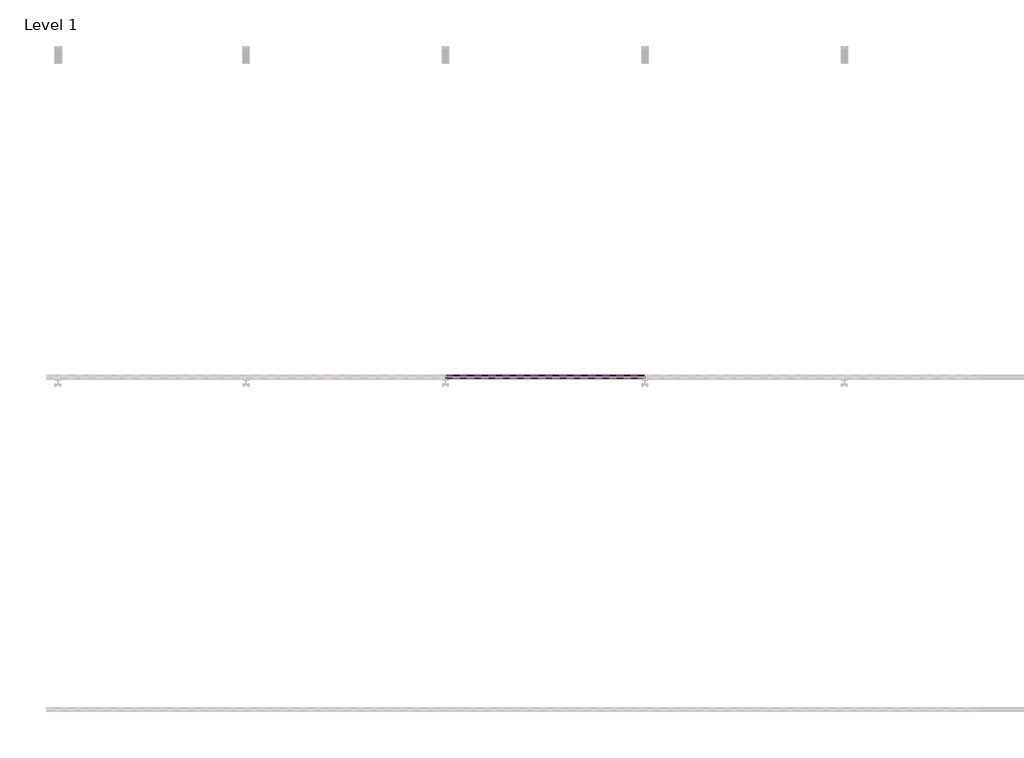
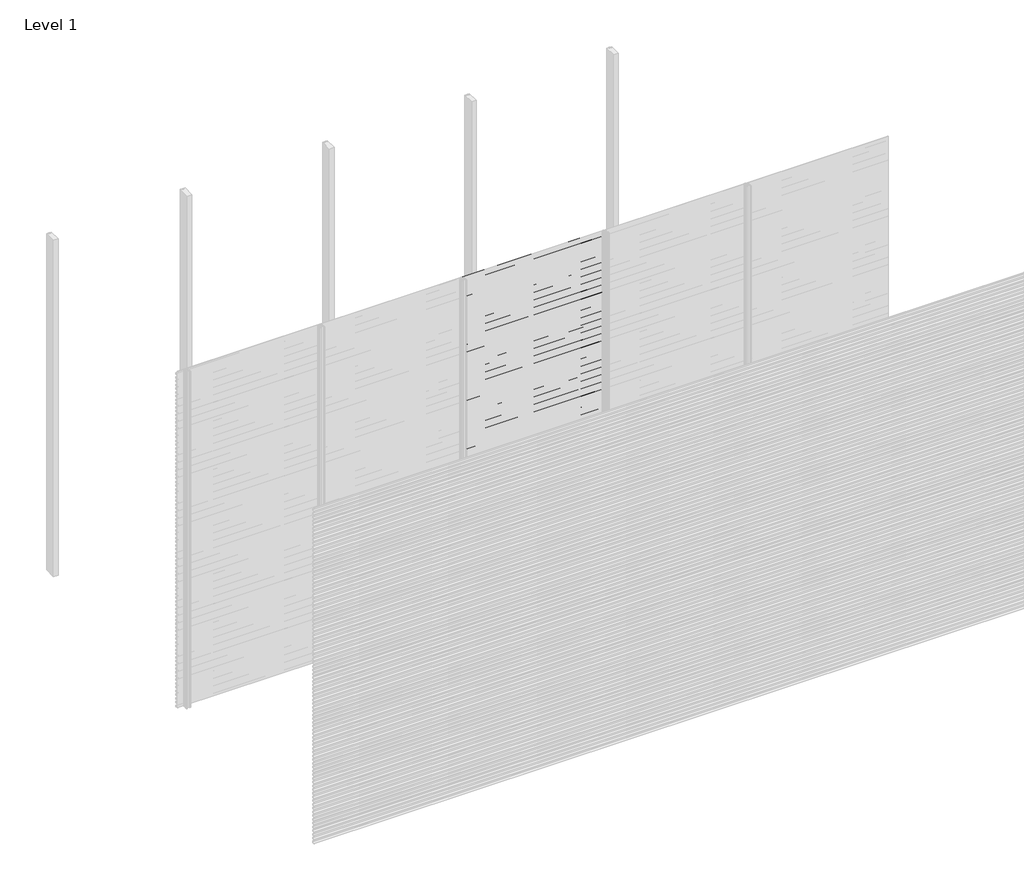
# One storey, part 22 of 77: 72 proxies.
"""IFC4 building model written with IfcOpenShell, lengths in millimetres."""

import ifcopenshell
import ifcopenshell.guid

model = None  # the IFC model being written
_history = None  # IfcOwnerHistory: only IFC2X3 demands one
_inside = {}  # id of a spatial element -> (the spatial element, [elements in it])
_under = {}  # id of a project, library or spatial element -> (it, [spatial elements below it])
_declared = {}  # id of a project -> (the project, [libraries it declares])
_typed = {}  # id of a type object -> (the type object, [elements of that type])
_made_of = {}  # id of a material, layer set ... -> (it, [elements and type objects made of it])


def new_model(schema):
    """Start an empty IFC model of exactly this schema.

    Asked for "IFC4X3", IfcOpenShell would pick the latest addendum, in which some entities
    have other attributes; the version numbers below select the first issue.
    IFC2X3 requires an IfcOwnerHistory on every rooted entity: one is made here for all.
    """
    global model, _history
    if schema == "IFC4X3":
        model = ifcopenshell.file(schema_version=(4, 3, 0, 0))
    else:
        model = ifcopenshell.file(schema=schema)
    _inside.clear()
    _under.clear()
    _declared.clear()
    _typed.clear()
    _made_of.clear()
    _history = None
    if model.schema == "IFC2X3":
        org = make("IfcOrganization", Name="unknown")
        user = make(
            "IfcPersonAndOrganization",
            ThePerson=make("IfcPerson", FamilyName="unknown"),
            TheOrganization=org,
        )
        app = make(
            "IfcApplication",
            ApplicationDeveloper=org,
            Version="unknown",
            ApplicationFullName="unknown",
            ApplicationIdentifier="unknown",
        )
        _history = make(
            "IfcOwnerHistory",
            OwningUser=user,
            OwningApplication=app,
            ChangeAction="ADDED",
            CreationDate=0,
        )
    return model


def make(cls, **values):
    """One entity of the class cls with the attributes given. An attribute that is None is left unset."""
    return model.create_entity(
        cls, **{name: value for name, value in values.items() if value is not None}
    )


def rooted(cls, **values):
    """An entity with a GlobalId (a new one), such as an element, a storey or a relation."""
    return make(cls, GlobalId=ifcopenshell.guid.new(), OwnerHistory=_history, **values)


def si_unit(unit_type, name, prefix=None):
    """IfcSIUnit, for example si_unit("LENGTHUNIT", "METRE", prefix="MILLI")."""
    return make("IfcSIUnit", UnitType=unit_type, Prefix=prefix, Name=name)


def assignment(units):
    """IfcUnitAssignment: the units of a project."""
    return None if units is None else make("IfcUnitAssignment", Units=units)


def point(xyz):
    """IfcCartesianPoint."""
    return None if xyz is None else make("IfcCartesianPoint", Coordinates=xyz)


def direction(xyz):
    """IfcDirection."""
    return None if xyz is None else make("IfcDirection", DirectionRatios=xyz)


def frame(location, z_axis=None, x_axis=None):
    """IfcAxis2Placement3D, a coordinate frame: its origin and axes. An axis left out is left unset."""
    return make(
        "IfcAxis2Placement3D",
        Location=point(location),
        Axis=direction(z_axis),
        RefDirection=direction(x_axis),
    )


def origin():
    """The frame at (0, 0, 0) with its axes left unset."""
    return frame((0.0, 0.0, 0.0))


def place(relative_to, where):
    """IfcLocalPlacement: puts the frame where relative to a parent placement (None: the world)."""
    return make(
        "IfcLocalPlacement", PlacementRelTo=relative_to, RelativePlacement=where
    )


def context(
    kind, dimensions, precision=None, world=None, true_north=None, identifier=None
):
    """IfcGeometricRepresentationContext, for example the 3D "Model" context."""
    return make(
        "IfcGeometricRepresentationContext",
        ContextIdentifier=identifier,
        ContextType=kind,
        CoordinateSpaceDimension=dimensions,
        Precision=precision,
        WorldCoordinateSystem=world,
        TrueNorth=true_north,
    )


def project(units=None, contexts=None):
    """IfcProject with its units and contexts."""
    return rooted(
        "IfcProject",
        Name="project",
        RepresentationContexts=contexts,
        UnitsInContext=assignment(units),
    )


def spatial(cls, under=None, at=None, **own):
    """A site, building, storey or space (cls), placed at a placement, below another one or the project."""
    s = rooted(cls, ObjectPlacement=at, **own)
    if under is not None:
        _under.setdefault(under.id(), (under, []))[1].append(s)
    return s


def polyline(points):
    """IfcPolyline through the points."""
    return make("IfcPolyline", Points=[point(p) for p in points])


def outline(outer, holes=None, kind="AREA"):
    """IfcArbitraryClosedProfileDef: a profile drawn as a closed curve; with holes, ...WithVoids."""
    if holes is None:
        return make("IfcArbitraryClosedProfileDef", ProfileType=kind, OuterCurve=outer)
    return make(
        "IfcArbitraryProfileDefWithVoids",
        ProfileType=kind,
        OuterCurve=outer,
        InnerCurves=holes,
    )


def extrude(swept, where, along, depth):
    """IfcExtrudedAreaSolid: the profile swept, set in the frame where, extruded along a direction by depth."""
    return make(
        "IfcExtrudedAreaSolid",
        SweptArea=swept,
        Position=where,
        ExtrudedDirection=direction(along),
        Depth=depth,
    )


def shape(context_of_items, identifier, shape_type, items):
    """IfcShapeRepresentation: the items that make up one representation, for example the "Body"."""
    return make(
        "IfcShapeRepresentation",
        ContextOfItems=context_of_items,
        RepresentationIdentifier=identifier,
        RepresentationType=shape_type,
        Items=items,
    )


def made_of(thing, what):
    """Note that an element or type object is made of a material, layer set ...; save() writes the relation."""
    if what is not None:
        _made_of.setdefault(what.id(), (what, []))[1].append(thing)
    return thing


def element(
    cls,
    number,
    at=None,
    inside=None,
    cuts=None,
    type_object=None,
    material=None,
    context=None,
    identifier="Body",
    shape_type=None,
    held_by="IfcProductDefinitionShape",
    body=None,
    shapes=None,
    **own,
):
    """One element of the class cls, such as IfcWall. Its Tag is "e" and its number.

    at: its placement. inside: the storey or other place that contains it. cuts: it is an
    opening in that element (IfcRelVoidsElement). A single representation is given by context,
    identifier, shape_type and body (its items); several are given by shapes. held_by: the class
    of the entity that holds the representations. save() writes the other relations.
    """
    e = rooted(cls, Tag="e%d" % number, ObjectPlacement=at, **own)
    if body is not None:
        shapes = [shape(context, identifier, shape_type, body)]
    if shapes is not None:
        e.Representation = make(held_by, Representations=shapes)
    if inside is not None:
        _inside.setdefault(inside.id(), (inside, []))[1].append(e)
    if cuts is not None:
        rooted(
            "IfcRelVoidsElement", RelatingBuildingElement=cuts, RelatedOpeningElement=e
        )
    if type_object is not None:
        _typed.setdefault(type_object.id(), (type_object, []))[1].append(e)
    return made_of(e, material)


def aggregate(whole, parts):
    """IfcRelAggregates: a whole, such as a stair, and the parts it consists of."""
    return rooted("IfcRelAggregates", RelatingObject=whole, RelatedObjects=parts)


def save(model, path):
    """Write the relations noted so far, then the file.

    IfcRelAggregates (storeys below a building ...), IfcRelContainedInSpatialStructure (elements
    in a storey), IfcRelDefinesByType, IfcRelAssociatesMaterial and IfcRelDeclares: one each for
    every whole, place, type object, material and project.
    """
    for whole, parts in _under.values():
        aggregate(whole, parts)
    for where, things in _inside.values():
        rooted(
            "IfcRelContainedInSpatialStructure",
            RelatedElements=things,
            RelatingStructure=where,
        )
    for kind, things in _typed.values():
        rooted("IfcRelDefinesByType", RelatedObjects=things, RelatingType=kind)
    for what, things in _made_of.values():
        rooted("IfcRelAssociatesMaterial", RelatedObjects=things, RelatingMaterial=what)
    for by, libraries in _declared.values():
        rooted("IfcRelDeclares", RelatingContext=by, RelatedDefinitions=libraries)
    model.write(path)


model = new_model("IFC4")

# Units and contexts
model_context = context("Model", 3, world=origin())
ifc_project = project(units=[si_unit("LENGTHUNIT", "METRE", prefix="MILLI")], contexts=[model_context])

# Site, building, storey
site = spatial("IfcSite", under=ifc_project)
building = spatial("IfcBuilding", under=site)
storey = spatial("IfcBuildingStorey", under=building, Name="Level 1", Elevation=0.0)

# Proxies
placement = place(None, origin())
element("IfcBuildingElementProxy", 1, Name="Wall Sweeps", at=placement, inside=storey, context=model_context, shape_type="SweptSolid", body=[
    extrude(outline(polyline([(-41978.6, 408.4359887), (-41998.0, 419.6366691), (-41998.0, 432.9), (-41997.0, 432.9), (-41997.0, 420.2191057), (-41977.6, 409.0185105), (-41977.6, 395.4185105), (-41978.6, 396.9953129), (-41978.6, 402.8032062), (-41995.9773817, 394.7), (-41996.4, 395.6063078), (-41978.6, 403.9065841), (-41978.6, 408.4359887)])), frame((1200.0, 0.0, 0.0), z_axis=(1.0, 0.0, 0.0), x_axis=(0.0, 1.0, 0.0)), (0.0, 0.0, 1.0), 1200.0),
])
element("IfcBuildingElementProxy", 2, Name="Wall Sweeps", at=placement, inside=storey, context=model_context, shape_type="SweptSolid", body=[
    extrude(outline(polyline([(-41978.6, 375.1359887), (-41998.0, 386.3366691), (-41998.0, 399.6), (-41997.0, 399.6), (-41997.0, 386.9191057), (-41977.6, 375.7185105), (-41977.6, 362.1185105), (-41978.6, 363.6953129), (-41978.6, 369.5032062), (-41995.9773817, 361.4), (-41996.4, 362.3063078), (-41978.6, 370.6065841), (-41978.6, 375.1359887)])), frame((1200.0, 0.0, 0.0), z_axis=(1.0, 0.0, 0.0), x_axis=(0.0, 1.0, 0.0)), (0.0, 0.0, 1.0), 1200.0),
])
element("IfcBuildingElementProxy", 3, Name="Wall Sweeps", at=placement, inside=storey, context=model_context, shape_type="SweptSolid", body=[
    extrude(outline(polyline([(-41978.6, 341.8359887), (-41998.0, 353.0366691), (-41998.0, 366.3), (-41997.0, 366.3), (-41997.0, 353.6191057), (-41977.6, 342.4185105), (-41977.6, 328.8185105), (-41978.6, 330.3953129), (-41978.6, 336.2032062), (-41995.9773817, 328.1), (-41996.4, 329.0063078), (-41978.6, 337.3065841), (-41978.6, 341.8359887)])), frame((1200.0, 0.0, 0.0), z_axis=(1.0, 0.0, 0.0), x_axis=(0.0, 1.0, 0.0)), (0.0, 0.0, 1.0), 1200.0),
])
element("IfcBuildingElementProxy", 4, Name="Wall Sweeps", at=placement, inside=storey, context=model_context, shape_type="SweptSolid", body=[
    extrude(outline(polyline([(-41978.6, 308.5359887), (-41998.0, 319.7366691), (-41998.0, 333.0), (-41997.0, 333.0), (-41997.0, 320.3191057), (-41977.6, 309.1185105), (-41977.6, 295.5185105), (-41978.6, 297.0953129), (-41978.6, 302.9032062), (-41995.9773817, 294.8), (-41996.4, 295.7063078), (-41978.6, 304.0065841), (-41978.6, 308.5359887)])), frame((1200.0, 0.0, 0.0), z_axis=(1.0, 0.0, 0.0), x_axis=(0.0, 1.0, 0.0)), (0.0, 0.0, 1.0), 1200.0),
])
element("IfcBuildingElementProxy", 5, Name="Wall Sweeps", at=placement, inside=storey, context=model_context, shape_type="SweptSolid", body=[
    extrude(outline(polyline([(-41978.6, 275.2359887), (-41998.0, 286.4366691), (-41998.0, 299.7), (-41997.0, 299.7), (-41997.0, 287.0191057), (-41977.6, 275.8185105), (-41977.6, 262.2185105), (-41978.6, 263.7953129), (-41978.6, 269.6032062), (-41995.9773817, 261.5), (-41996.4, 262.4063078), (-41978.6, 270.7065841), (-41978.6, 275.2359887)])), frame((1200.0, 0.0, 0.0), z_axis=(1.0, 0.0, 0.0), x_axis=(0.0, 1.0, 0.0)), (0.0, 0.0, 1.0), 1200.0),
])
element("IfcBuildingElementProxy", 6, Name="Wall Sweeps", at=placement, inside=storey, context=model_context, shape_type="SweptSolid", body=[
    extrude(outline(polyline([(-41978.6, 241.9359887), (-41998.0, 253.1366691), (-41998.0, 266.4), (-41997.0, 266.4), (-41997.0, 253.7191057), (-41977.6, 242.5185105), (-41977.6, 228.9185105), (-41978.6, 230.4953129), (-41978.6, 236.3032062), (-41995.9773817, 228.2), (-41996.4, 229.1063078), (-41978.6, 237.4065841), (-41978.6, 241.9359887)])), frame((1200.0, 0.0, 0.0), z_axis=(1.0, 0.0, 0.0), x_axis=(0.0, 1.0, 0.0)), (0.0, 0.0, 1.0), 1200.0),
])
element("IfcBuildingElementProxy", 7, Name="Wall Sweeps", at=placement, inside=storey, context=model_context, shape_type="SweptSolid", body=[
    extrude(outline(polyline([(-41978.6, 208.6359887), (-41998.0, 219.8366691), (-41998.0, 233.1), (-41997.0, 233.1), (-41997.0, 220.4191057), (-41977.6, 209.2185105), (-41977.6, 195.6185105), (-41978.6, 197.1953129), (-41978.6, 203.0032062), (-41995.9773817, 194.9), (-41996.4, 195.8063078), (-41978.6, 204.1065841), (-41978.6, 208.6359887)])), frame((1200.0, 0.0, 0.0), z_axis=(1.0, 0.0, 0.0), x_axis=(0.0, 1.0, 0.0)), (0.0, 0.0, 1.0), 1200.0),
])
element("IfcBuildingElementProxy", 8, Name="Wall Sweeps", at=placement, inside=storey, context=model_context, shape_type="SweptSolid", body=[
    extrude(outline(polyline([(-41978.6, 175.3359887), (-41998.0, 186.5366691), (-41998.0, 199.8), (-41997.0, 199.8), (-41997.0, 187.1191057), (-41977.6, 175.9185105), (-41977.6, 162.3185105), (-41978.6, 163.8953129), (-41978.6, 169.7032062), (-41995.9773817, 161.6), (-41996.4, 162.5063078), (-41978.6, 170.8065841), (-41978.6, 175.3359887)])), frame((1200.0, 0.0, 0.0), z_axis=(1.0, 0.0, 0.0), x_axis=(0.0, 1.0, 0.0)), (0.0, 0.0, 1.0), 1200.0),
])
element("IfcBuildingElementProxy", 9, Name="Wall Sweeps", at=placement, inside=storey, context=model_context, shape_type="SweptSolid", body=[
    extrude(outline(polyline([(-41978.6, 142.0359887), (-41998.0, 153.2366691), (-41998.0, 166.5), (-41997.0, 166.5), (-41997.0, 153.8191057), (-41977.6, 142.6185105), (-41977.6, 129.0185105), (-41978.6, 130.5953129), (-41978.6, 136.4032062), (-41995.9773817, 128.3), (-41996.4, 129.2063078), (-41978.6, 137.5065841), (-41978.6, 142.0359887)])), frame((1200.0, 0.0, 0.0), z_axis=(1.0, 0.0, 0.0), x_axis=(0.0, 1.0, 0.0)), (0.0, 0.0, 1.0), 1200.0),
])
element("IfcBuildingElementProxy", 10, Name="Wall Sweeps", at=placement, inside=storey, context=model_context, shape_type="SweptSolid", body=[
    extrude(outline(polyline([(-41978.6, 108.7359887), (-41998.0, 119.9366691), (-41998.0, 133.2), (-41997.0, 133.2), (-41997.0, 120.5191057), (-41977.6, 109.3185105), (-41977.6, 95.7185105), (-41978.6, 97.2953129), (-41978.6, 103.1032062), (-41995.9773817, 95.0), (-41996.4, 95.9063078), (-41978.6, 104.2065841), (-41978.6, 108.7359887)])), frame((1200.0, 0.0, 0.0), z_axis=(1.0, 0.0, 0.0), x_axis=(0.0, 1.0, 0.0)), (0.0, 0.0, 1.0), 1200.0),
])
element("IfcBuildingElementProxy", 11, Name="Wall Sweeps", at=placement, inside=storey, context=model_context, shape_type="SweptSolid", body=[
    extrude(outline(polyline([(-41978.6, 75.4359887), (-41998.0, 86.6366691), (-41998.0, 99.9), (-41997.0, 99.9), (-41997.0, 87.2191057), (-41977.6, 76.0185105), (-41977.6, 62.4185105), (-41978.6, 63.9953129), (-41978.6, 69.8032062), (-41995.9773817, 61.7), (-41996.4, 62.6063078), (-41978.6, 70.9065841), (-41978.6, 75.4359887)])), frame((1200.0, 0.0, 0.0), z_axis=(1.0, 0.0, 0.0), x_axis=(0.0, 1.0, 0.0)), (0.0, 0.0, 1.0), 1200.0),
])
element("IfcBuildingElementProxy", 12, Name="Wall Sweeps", at=placement, inside=storey, context=model_context, shape_type="SweptSolid", body=[
    extrude(outline(polyline([(-41978.6, 42.1359887), (-41998.0, 53.3366691), (-41998.0, 66.6), (-41997.0, 66.6), (-41997.0, 53.9191057), (-41977.6, 42.7185105), (-41977.6, 29.1185105), (-41978.6, 30.6953129), (-41978.6, 36.5032062), (-41995.9773817, 28.4), (-41996.4, 29.3063078), (-41978.6, 37.6065841), (-41978.6, 42.1359887)])), frame((1200.0, 0.0, 0.0), z_axis=(1.0, 0.0, 0.0), x_axis=(0.0, 1.0, 0.0)), (0.0, 0.0, 1.0), 1200.0),
])
element("IfcBuildingElementProxy", 13, Name="Wall Sweeps", at=placement, inside=storey, context=model_context, shape_type="SweptSolid", body=[
    extrude(outline(polyline([(-41978.6, 8.8359887), (-41998.0, 20.0366691), (-41998.0, 33.3), (-41997.0, 33.3), (-41997.0, 20.6191057), (-41977.6, 9.4185105), (-41977.6, -4.1814895), (-41978.6, -2.6046871), (-41978.6, 3.2032062), (-41995.9773817, -4.9), (-41996.4, -3.9936922), (-41978.6, 4.3065841), (-41978.6, 8.8359887)])), frame((1200.0, 0.0, 0.0), z_axis=(1.0, 0.0, 0.0), x_axis=(0.0, 1.0, 0.0)), (0.0, 0.0, 1.0), 1200.0),
])
element("IfcBuildingElementProxy", 14, Name="Wall Sweeps", at=placement, inside=storey, context=model_context, shape_type="SweptSolid", body=[
    extrude(outline(polyline([(-41978.6, 2972.5359887), (-41998.0, 2983.7366691), (-41998.0, 2997.0), (-41997.0, 2997.0), (-41997.0, 2984.3191057), (-41977.6, 2973.1185105), (-41977.6, 2959.5185105), (-41978.6, 2961.0953129), (-41978.6, 2966.9032062), (-41995.9773817, 2958.8), (-41996.4, 2959.7063078), (-41978.6, 2968.0065841), (-41978.6, 2972.5359887)])), frame((2400.0, 0.0, 0.0), z_axis=(1.0, 0.0, 0.0), x_axis=(0.0, 1.0, 0.0)), (0.0, 0.0, 1.0), 1200.0),
])
element("IfcBuildingElementProxy", 15, Name="Wall Sweeps", at=placement, inside=storey, context=model_context, shape_type="SweptSolid", body=[
    extrude(outline(polyline([(-41978.6, 2939.2359887), (-41998.0, 2950.4366691), (-41998.0, 2963.7), (-41997.0, 2963.7), (-41997.0, 2951.0191057), (-41977.6, 2939.8185105), (-41977.6, 2926.2185105), (-41978.6, 2927.7953129), (-41978.6, 2933.6032062), (-41995.9773817, 2925.5), (-41996.4, 2926.4063078), (-41978.6, 2934.7065841), (-41978.6, 2939.2359887)])), frame((2400.0, 0.0, 0.0), z_axis=(1.0, 0.0, 0.0), x_axis=(0.0, 1.0, 0.0)), (0.0, 0.0, 1.0), 1200.0),
])
element("IfcBuildingElementProxy", 16, Name="Wall Sweeps", at=placement, inside=storey, context=model_context, shape_type="SweptSolid", body=[
    extrude(outline(polyline([(-41978.6, 2905.9359887), (-41998.0, 2917.1366691), (-41998.0, 2930.4), (-41997.0, 2930.4), (-41997.0, 2917.7191057), (-41977.6, 2906.5185105), (-41977.6, 2892.9185105), (-41978.6, 2894.4953129), (-41978.6, 2900.3032062), (-41995.9773817, 2892.2), (-41996.4, 2893.1063078), (-41978.6, 2901.4065841), (-41978.6, 2905.9359887)])), frame((2400.0, 0.0, 0.0), z_axis=(1.0, 0.0, 0.0), x_axis=(0.0, 1.0, 0.0)), (0.0, 0.0, 1.0), 1200.0),
])
element("IfcBuildingElementProxy", 17, Name="Wall Sweeps", at=placement, inside=storey, context=model_context, shape_type="SweptSolid", body=[
    extrude(outline(polyline([(-41978.6, 2872.6359887), (-41998.0, 2883.8366691), (-41998.0, 2897.1), (-41997.0, 2897.1), (-41997.0, 2884.4191057), (-41977.6, 2873.2185105), (-41977.6, 2859.6185105), (-41978.6, 2861.1953129), (-41978.6, 2867.0032062), (-41995.9773817, 2858.9), (-41996.4, 2859.8063078), (-41978.6, 2868.1065841), (-41978.6, 2872.6359887)])), frame((2400.0, 0.0, 0.0), z_axis=(1.0, 0.0, 0.0), x_axis=(0.0, 1.0, 0.0)), (0.0, 0.0, 1.0), 1200.0),
])
element("IfcBuildingElementProxy", 18, Name="Wall Sweeps", at=placement, inside=storey, context=model_context, shape_type="SweptSolid", body=[
    extrude(outline(polyline([(-41978.6, 2839.3359887), (-41998.0, 2850.5366691), (-41998.0, 2863.8), (-41997.0, 2863.8), (-41997.0, 2851.1191057), (-41977.6, 2839.9185105), (-41977.6, 2826.3185105), (-41978.6, 2827.8953129), (-41978.6, 2833.7032062), (-41995.9773817, 2825.6), (-41996.4, 2826.5063078), (-41978.6, 2834.8065841), (-41978.6, 2839.3359887)])), frame((2400.0, 0.0, 0.0), z_axis=(1.0, 0.0, 0.0), x_axis=(0.0, 1.0, 0.0)), (0.0, 0.0, 1.0), 1200.0),
])
element("IfcBuildingElementProxy", 19, Name="Wall Sweeps", at=placement, inside=storey, context=model_context, shape_type="SweptSolid", body=[
    extrude(outline(polyline([(-41978.6, 2806.0359887), (-41998.0, 2817.2366691), (-41998.0, 2830.5), (-41997.0, 2830.5), (-41997.0, 2817.8191057), (-41977.6, 2806.6185105), (-41977.6, 2793.0185105), (-41978.6, 2794.5953129), (-41978.6, 2800.4032062), (-41995.9773817, 2792.3), (-41996.4, 2793.2063078), (-41978.6, 2801.5065841), (-41978.6, 2806.0359887)])), frame((2400.0, 0.0, 0.0), z_axis=(1.0, 0.0, 0.0), x_axis=(0.0, 1.0, 0.0)), (0.0, 0.0, 1.0), 1200.0),
])
element("IfcBuildingElementProxy", 20, Name="Wall Sweeps", at=placement, inside=storey, context=model_context, shape_type="SweptSolid", body=[
    extrude(outline(polyline([(-41978.6, 2772.7359887), (-41998.0, 2783.9366691), (-41998.0, 2797.2), (-41997.0, 2797.2), (-41997.0, 2784.5191057), (-41977.6, 2773.3185105), (-41977.6, 2759.7185105), (-41978.6, 2761.2953129), (-41978.6, 2767.1032062), (-41995.9773817, 2759.0), (-41996.4, 2759.9063078), (-41978.6, 2768.2065841), (-41978.6, 2772.7359887)])), frame((2400.0, 0.0, 0.0), z_axis=(1.0, 0.0, 0.0), x_axis=(0.0, 1.0, 0.0)), (0.0, 0.0, 1.0), 1200.0),
])
element("IfcBuildingElementProxy", 21, Name="Wall Sweeps", at=placement, inside=storey, context=model_context, shape_type="SweptSolid", body=[
    extrude(outline(polyline([(-41978.6, 2739.4359887), (-41998.0, 2750.6366691), (-41998.0, 2763.9), (-41997.0, 2763.9), (-41997.0, 2751.2191057), (-41977.6, 2740.0185105), (-41977.6, 2726.4185105), (-41978.6, 2727.9953129), (-41978.6, 2733.8032062), (-41995.9773817, 2725.7), (-41996.4, 2726.6063078), (-41978.6, 2734.9065841), (-41978.6, 2739.4359887)])), frame((2400.0, 0.0, 0.0), z_axis=(1.0, 0.0, 0.0), x_axis=(0.0, 1.0, 0.0)), (0.0, 0.0, 1.0), 1200.0),
])
element("IfcBuildingElementProxy", 22, Name="Wall Sweeps", at=placement, inside=storey, context=model_context, shape_type="SweptSolid", body=[
    extrude(outline(polyline([(-41978.6, 2706.1359887), (-41998.0, 2717.3366691), (-41998.0, 2730.6), (-41997.0, 2730.6), (-41997.0, 2717.9191057), (-41977.6, 2706.7185105), (-41977.6, 2693.1185105), (-41978.6, 2694.6953129), (-41978.6, 2700.5032062), (-41995.9773817, 2692.4), (-41996.4, 2693.3063078), (-41978.6, 2701.6065841), (-41978.6, 2706.1359887)])), frame((2400.0, 0.0, 0.0), z_axis=(1.0, 0.0, 0.0), x_axis=(0.0, 1.0, 0.0)), (0.0, 0.0, 1.0), 1200.0),
])
element("IfcBuildingElementProxy", 23, Name="Wall Sweeps", at=placement, inside=storey, context=model_context, shape_type="SweptSolid", body=[
    extrude(outline(polyline([(-41978.6, 2672.8359887), (-41998.0, 2684.0366691), (-41998.0, 2697.3), (-41997.0, 2697.3), (-41997.0, 2684.6191057), (-41977.6, 2673.4185105), (-41977.6, 2659.8185105), (-41978.6, 2661.3953129), (-41978.6, 2667.2032062), (-41995.9773817, 2659.1), (-41996.4, 2660.0063078), (-41978.6, 2668.3065841), (-41978.6, 2672.8359887)])), frame((2400.0, 0.0, 0.0), z_axis=(1.0, 0.0, 0.0), x_axis=(0.0, 1.0, 0.0)), (0.0, 0.0, 1.0), 1200.0),
])
element("IfcBuildingElementProxy", 24, Name="Wall Sweeps", at=placement, inside=storey, context=model_context, shape_type="SweptSolid", body=[
    extrude(outline(polyline([(-41978.6, 2639.5359887), (-41998.0, 2650.7366691), (-41998.0, 2664.0), (-41997.0, 2664.0), (-41997.0, 2651.3191057), (-41977.6, 2640.1185105), (-41977.6, 2626.5185105), (-41978.6, 2628.0953129), (-41978.6, 2633.9032062), (-41995.9773817, 2625.8), (-41996.4, 2626.7063078), (-41978.6, 2635.0065841), (-41978.6, 2639.5359887)])), frame((2400.0, 0.0, 0.0), z_axis=(1.0, 0.0, 0.0), x_axis=(0.0, 1.0, 0.0)), (0.0, 0.0, 1.0), 1200.0),
])
element("IfcBuildingElementProxy", 25, Name="Wall Sweeps", at=placement, inside=storey, context=model_context, shape_type="SweptSolid", body=[
    extrude(outline(polyline([(-41978.6, 2606.2359887), (-41998.0, 2617.4366691), (-41998.0, 2630.7), (-41997.0, 2630.7), (-41997.0, 2618.0191057), (-41977.6, 2606.8185105), (-41977.6, 2593.2185105), (-41978.6, 2594.7953129), (-41978.6, 2600.6032062), (-41995.9773817, 2592.5), (-41996.4, 2593.4063078), (-41978.6, 2601.7065841), (-41978.6, 2606.2359887)])), frame((2400.0, 0.0, 0.0), z_axis=(1.0, 0.0, 0.0), x_axis=(0.0, 1.0, 0.0)), (0.0, 0.0, 1.0), 1200.0),
])
element("IfcBuildingElementProxy", 26, Name="Wall Sweeps", at=placement, inside=storey, context=model_context, shape_type="SweptSolid", body=[
    extrude(outline(polyline([(-41978.6, 2572.9359887), (-41998.0, 2584.1366691), (-41998.0, 2597.4), (-41997.0, 2597.4), (-41997.0, 2584.7191057), (-41977.6, 2573.5185105), (-41977.6, 2559.9185105), (-41978.6, 2561.4953129), (-41978.6, 2567.3032062), (-41995.9773817, 2559.2), (-41996.4, 2560.1063078), (-41978.6, 2568.4065841), (-41978.6, 2572.9359887)])), frame((2400.0, 0.0, 0.0), z_axis=(1.0, 0.0, 0.0), x_axis=(0.0, 1.0, 0.0)), (0.0, 0.0, 1.0), 1200.0),
])
element("IfcBuildingElementProxy", 27, Name="Wall Sweeps", at=placement, inside=storey, context=model_context, shape_type="SweptSolid", body=[
    extrude(outline(polyline([(-41978.6, 2539.6359887), (-41998.0, 2550.8366691), (-41998.0, 2564.1), (-41997.0, 2564.1), (-41997.0, 2551.4191057), (-41977.6, 2540.2185105), (-41977.6, 2526.6185105), (-41978.6, 2528.1953129), (-41978.6, 2534.0032062), (-41995.9773817, 2525.9), (-41996.4, 2526.8063078), (-41978.6, 2535.1065841), (-41978.6, 2539.6359887)])), frame((2400.0, 0.0, 0.0), z_axis=(1.0, 0.0, 0.0), x_axis=(0.0, 1.0, 0.0)), (0.0, 0.0, 1.0), 1200.0),
])
element("IfcBuildingElementProxy", 28, Name="Wall Sweeps", at=placement, inside=storey, context=model_context, shape_type="SweptSolid", body=[
    extrude(outline(polyline([(-41978.6, 2506.3359887), (-41998.0, 2517.5366691), (-41998.0, 2530.8), (-41997.0, 2530.8), (-41997.0, 2518.1191057), (-41977.6, 2506.9185105), (-41977.6, 2493.3185105), (-41978.6, 2494.8953129), (-41978.6, 2500.7032062), (-41995.9773817, 2492.6), (-41996.4, 2493.5063078), (-41978.6, 2501.8065841), (-41978.6, 2506.3359887)])), frame((2400.0, 0.0, 0.0), z_axis=(1.0, 0.0, 0.0), x_axis=(0.0, 1.0, 0.0)), (0.0, 0.0, 1.0), 1200.0),
])
element("IfcBuildingElementProxy", 29, Name="Wall Sweeps", at=placement, inside=storey, context=model_context, shape_type="SweptSolid", body=[
    extrude(outline(polyline([(-41978.6, 2473.0359887), (-41998.0, 2484.2366691), (-41998.0, 2497.5), (-41997.0, 2497.5), (-41997.0, 2484.8191057), (-41977.6, 2473.6185105), (-41977.6, 2460.0185105), (-41978.6, 2461.5953129), (-41978.6, 2467.4032062), (-41995.9773817, 2459.3), (-41996.4, 2460.2063078), (-41978.6, 2468.5065841), (-41978.6, 2473.0359887)])), frame((2400.0, 0.0, 0.0), z_axis=(1.0, 0.0, 0.0), x_axis=(0.0, 1.0, 0.0)), (0.0, 0.0, 1.0), 1200.0),
])
element("IfcBuildingElementProxy", 30, Name="Wall Sweeps", at=placement, inside=storey, context=model_context, shape_type="SweptSolid", body=[
    extrude(outline(polyline([(-41978.6, 2439.7359887), (-41998.0, 2450.9366691), (-41998.0, 2464.2), (-41997.0, 2464.2), (-41997.0, 2451.5191057), (-41977.6, 2440.3185105), (-41977.6, 2426.7185105), (-41978.6, 2428.2953129), (-41978.6, 2434.1032062), (-41995.9773817, 2426.0), (-41996.4, 2426.9063078), (-41978.6, 2435.2065841), (-41978.6, 2439.7359887)])), frame((2400.0, 0.0, 0.0), z_axis=(1.0, 0.0, 0.0), x_axis=(0.0, 1.0, 0.0)), (0.0, 0.0, 1.0), 1200.0),
])
element("IfcBuildingElementProxy", 31, Name="Wall Sweeps", at=placement, inside=storey, context=model_context, shape_type="SweptSolid", body=[
    extrude(outline(polyline([(-41978.6, 2406.4359887), (-41998.0, 2417.6366691), (-41998.0, 2430.9), (-41997.0, 2430.9), (-41997.0, 2418.2191057), (-41977.6, 2407.0185105), (-41977.6, 2393.4185105), (-41978.6, 2394.9953129), (-41978.6, 2400.8032062), (-41995.9773817, 2392.7), (-41996.4, 2393.6063078), (-41978.6, 2401.9065841), (-41978.6, 2406.4359887)])), frame((2400.0, 0.0, 0.0), z_axis=(1.0, 0.0, 0.0), x_axis=(0.0, 1.0, 0.0)), (0.0, 0.0, 1.0), 1200.0),
])
element("IfcBuildingElementProxy", 32, Name="Wall Sweeps", at=placement, inside=storey, context=model_context, shape_type="SweptSolid", body=[
    extrude(outline(polyline([(-41978.6, 2373.1359887), (-41998.0, 2384.3366691), (-41998.0, 2397.6), (-41997.0, 2397.6), (-41997.0, 2384.9191057), (-41977.6, 2373.7185105), (-41977.6, 2360.1185105), (-41978.6, 2361.6953129), (-41978.6, 2367.5032062), (-41995.9773817, 2359.4), (-41996.4, 2360.3063078), (-41978.6, 2368.6065841), (-41978.6, 2373.1359887)])), frame((2400.0, 0.0, 0.0), z_axis=(1.0, 0.0, 0.0), x_axis=(0.0, 1.0, 0.0)), (0.0, 0.0, 1.0), 1200.0),
])
element("IfcBuildingElementProxy", 33, Name="Wall Sweeps", at=placement, inside=storey, context=model_context, shape_type="SweptSolid", body=[
    extrude(outline(polyline([(-41978.6, 2339.8359887), (-41998.0, 2351.0366691), (-41998.0, 2364.3), (-41997.0, 2364.3), (-41997.0, 2351.6191057), (-41977.6, 2340.4185105), (-41977.6, 2326.8185105), (-41978.6, 2328.3953129), (-41978.6, 2334.2032062), (-41995.9773817, 2326.1), (-41996.4, 2327.0063078), (-41978.6, 2335.3065841), (-41978.6, 2339.8359887)])), frame((2400.0, 0.0, 0.0), z_axis=(1.0, 0.0, 0.0), x_axis=(0.0, 1.0, 0.0)), (0.0, 0.0, 1.0), 1200.0),
])
element("IfcBuildingElementProxy", 34, Name="Wall Sweeps", at=placement, inside=storey, context=model_context, shape_type="SweptSolid", body=[
    extrude(outline(polyline([(-41978.6, 2306.5359887), (-41998.0, 2317.7366691), (-41998.0, 2331.0), (-41997.0, 2331.0), (-41997.0, 2318.3191057), (-41977.6, 2307.1185105), (-41977.6, 2293.5185105), (-41978.6, 2295.0953129), (-41978.6, 2300.9032062), (-41995.9773817, 2292.8), (-41996.4, 2293.7063078), (-41978.6, 2302.0065841), (-41978.6, 2306.5359887)])), frame((2400.0, 0.0, 0.0), z_axis=(1.0, 0.0, 0.0), x_axis=(0.0, 1.0, 0.0)), (0.0, 0.0, 1.0), 1200.0),
])
element("IfcBuildingElementProxy", 35, Name="Wall Sweeps", at=placement, inside=storey, context=model_context, shape_type="SweptSolid", body=[
    extrude(outline(polyline([(-41978.6, 2273.2359887), (-41998.0, 2284.4366691), (-41998.0, 2297.7), (-41997.0, 2297.7), (-41997.0, 2285.0191057), (-41977.6, 2273.8185105), (-41977.6, 2260.2185105), (-41978.6, 2261.7953129), (-41978.6, 2267.6032062), (-41995.9773817, 2259.5), (-41996.4, 2260.4063078), (-41978.6, 2268.7065841), (-41978.6, 2273.2359887)])), frame((2400.0, 0.0, 0.0), z_axis=(1.0, 0.0, 0.0), x_axis=(0.0, 1.0, 0.0)), (0.0, 0.0, 1.0), 1200.0),
])
element("IfcBuildingElementProxy", 36, Name="Wall Sweeps", at=placement, inside=storey, context=model_context, shape_type="SweptSolid", body=[
    extrude(outline(polyline([(-41978.6, 2239.9359887), (-41998.0, 2251.1366691), (-41998.0, 2264.4), (-41997.0, 2264.4), (-41997.0, 2251.7191057), (-41977.6, 2240.5185105), (-41977.6, 2226.9185105), (-41978.6, 2228.4953129), (-41978.6, 2234.3032062), (-41995.9773817, 2226.2), (-41996.4, 2227.1063078), (-41978.6, 2235.4065841), (-41978.6, 2239.9359887)])), frame((2400.0, 0.0, 0.0), z_axis=(1.0, 0.0, 0.0), x_axis=(0.0, 1.0, 0.0)), (0.0, 0.0, 1.0), 1200.0),
])
element("IfcBuildingElementProxy", 37, Name="Wall Sweeps", at=placement, inside=storey, context=model_context, shape_type="SweptSolid", body=[
    extrude(outline(polyline([(-41978.6, 2206.6359887), (-41998.0, 2217.8366691), (-41998.0, 2231.1), (-41997.0, 2231.1), (-41997.0, 2218.4191057), (-41977.6, 2207.2185105), (-41977.6, 2193.6185105), (-41978.6, 2195.1953129), (-41978.6, 2201.0032062), (-41995.9773817, 2192.9), (-41996.4, 2193.8063078), (-41978.6, 2202.1065841), (-41978.6, 2206.6359887)])), frame((2400.0, 0.0, 0.0), z_axis=(1.0, 0.0, 0.0), x_axis=(0.0, 1.0, 0.0)), (0.0, 0.0, 1.0), 1200.0),
])
element("IfcBuildingElementProxy", 38, Name="Wall Sweeps", at=placement, inside=storey, context=model_context, shape_type="SweptSolid", body=[
    extrude(outline(polyline([(-41978.6, 2173.3359887), (-41998.0, 2184.5366691), (-41998.0, 2197.8), (-41997.0, 2197.8), (-41997.0, 2185.1191057), (-41977.6, 2173.9185105), (-41977.6, 2160.3185105), (-41978.6, 2161.8953129), (-41978.6, 2167.7032062), (-41995.9773817, 2159.6), (-41996.4, 2160.5063078), (-41978.6, 2168.8065841), (-41978.6, 2173.3359887)])), frame((2400.0, 0.0, 0.0), z_axis=(1.0, 0.0, 0.0), x_axis=(0.0, 1.0, 0.0)), (0.0, 0.0, 1.0), 1200.0),
])
element("IfcBuildingElementProxy", 39, Name="Wall Sweeps", at=placement, inside=storey, context=model_context, shape_type="SweptSolid", body=[
    extrude(outline(polyline([(-41978.6, 2140.0359887), (-41998.0, 2151.2366691), (-41998.0, 2164.5), (-41997.0, 2164.5), (-41997.0, 2151.8191057), (-41977.6, 2140.6185105), (-41977.6, 2127.0185105), (-41978.6, 2128.5953129), (-41978.6, 2134.4032062), (-41995.9773817, 2126.3), (-41996.4, 2127.2063078), (-41978.6, 2135.5065841), (-41978.6, 2140.0359887)])), frame((2400.0, 0.0, 0.0), z_axis=(1.0, 0.0, 0.0), x_axis=(0.0, 1.0, 0.0)), (0.0, 0.0, 1.0), 1200.0),
])
element("IfcBuildingElementProxy", 40, Name="Wall Sweeps", at=placement, inside=storey, context=model_context, shape_type="SweptSolid", body=[
    extrude(outline(polyline([(-41978.6, 2106.7359887), (-41998.0, 2117.9366691), (-41998.0, 2131.2), (-41997.0, 2131.2), (-41997.0, 2118.5191057), (-41977.6, 2107.3185105), (-41977.6, 2093.7185105), (-41978.6, 2095.2953129), (-41978.6, 2101.1032062), (-41995.9773817, 2093.0), (-41996.4, 2093.9063078), (-41978.6, 2102.2065841), (-41978.6, 2106.7359887)])), frame((2400.0, 0.0, 0.0), z_axis=(1.0, 0.0, 0.0), x_axis=(0.0, 1.0, 0.0)), (0.0, 0.0, 1.0), 1200.0),
])
element("IfcBuildingElementProxy", 41, Name="Wall Sweeps", at=placement, inside=storey, context=model_context, shape_type="SweptSolid", body=[
    extrude(outline(polyline([(-41978.6, 2073.4359887), (-41998.0, 2084.6366691), (-41998.0, 2097.9), (-41997.0, 2097.9), (-41997.0, 2085.2191057), (-41977.6, 2074.0185105), (-41977.6, 2060.4185105), (-41978.6, 2061.9953129), (-41978.6, 2067.8032062), (-41995.9773817, 2059.7), (-41996.4, 2060.6063078), (-41978.6, 2068.9065841), (-41978.6, 2073.4359887)])), frame((2400.0, 0.0, 0.0), z_axis=(1.0, 0.0, 0.0), x_axis=(0.0, 1.0, 0.0)), (0.0, 0.0, 1.0), 1200.0),
])
element("IfcBuildingElementProxy", 42, Name="Wall Sweeps", at=placement, inside=storey, context=model_context, shape_type="SweptSolid", body=[
    extrude(outline(polyline([(-41978.6, 2040.1359887), (-41998.0, 2051.3366691), (-41998.0, 2064.6), (-41997.0, 2064.6), (-41997.0, 2051.9191057), (-41977.6, 2040.7185105), (-41977.6, 2027.1185105), (-41978.6, 2028.6953129), (-41978.6, 2034.5032062), (-41995.9773817, 2026.4), (-41996.4, 2027.3063078), (-41978.6, 2035.6065841), (-41978.6, 2040.1359887)])), frame((2400.0, 0.0, 0.0), z_axis=(1.0, 0.0, 0.0), x_axis=(0.0, 1.0, 0.0)), (0.0, 0.0, 1.0), 1200.0),
])
element("IfcBuildingElementProxy", 43, Name="Wall Sweeps", at=placement, inside=storey, context=model_context, shape_type="SweptSolid", body=[
    extrude(outline(polyline([(-41978.6, 2006.8359887), (-41998.0, 2018.0366691), (-41998.0, 2031.3), (-41997.0, 2031.3), (-41997.0, 2018.6191057), (-41977.6, 2007.4185105), (-41977.6, 1993.8185105), (-41978.6, 1995.3953129), (-41978.6, 2001.2032062), (-41995.9773817, 1993.1), (-41996.4, 1994.0063078), (-41978.6, 2002.3065841), (-41978.6, 2006.8359887)])), frame((2400.0, 0.0, 0.0), z_axis=(1.0, 0.0, 0.0), x_axis=(0.0, 1.0, 0.0)), (0.0, 0.0, 1.0), 1200.0),
])
element("IfcBuildingElementProxy", 44, Name="Wall Sweeps", at=placement, inside=storey, context=model_context, shape_type="SweptSolid", body=[
    extrude(outline(polyline([(-41978.6, 1973.5359887), (-41998.0, 1984.7366691), (-41998.0, 1998.0), (-41997.0, 1998.0), (-41997.0, 1985.3191057), (-41977.6, 1974.1185105), (-41977.6, 1960.5185105), (-41978.6, 1962.0953129), (-41978.6, 1967.9032062), (-41995.9773817, 1959.8), (-41996.4, 1960.7063078), (-41978.6, 1969.0065841), (-41978.6, 1973.5359887)])), frame((2400.0, 0.0, 0.0), z_axis=(1.0, 0.0, 0.0), x_axis=(0.0, 1.0, 0.0)), (0.0, 0.0, 1.0), 1200.0),
])
element("IfcBuildingElementProxy", 45, Name="Wall Sweeps", at=placement, inside=storey, context=model_context, shape_type="SweptSolid", body=[
    extrude(outline(polyline([(-41978.6, 1940.2359887), (-41998.0, 1951.4366691), (-41998.0, 1964.7), (-41997.0, 1964.7), (-41997.0, 1952.0191057), (-41977.6, 1940.8185105), (-41977.6, 1927.2185105), (-41978.6, 1928.7953129), (-41978.6, 1934.6032062), (-41995.9773817, 1926.5), (-41996.4, 1927.4063078), (-41978.6, 1935.7065841), (-41978.6, 1940.2359887)])), frame((2400.0, 0.0, 0.0), z_axis=(1.0, 0.0, 0.0), x_axis=(0.0, 1.0, 0.0)), (0.0, 0.0, 1.0), 1200.0),
])
element("IfcBuildingElementProxy", 46, Name="Wall Sweeps", at=placement, inside=storey, context=model_context, shape_type="SweptSolid", body=[
    extrude(outline(polyline([(-41978.6, 1906.9359887), (-41998.0, 1918.1366691), (-41998.0, 1931.4), (-41997.0, 1931.4), (-41997.0, 1918.7191057), (-41977.6, 1907.5185105), (-41977.6, 1893.9185105), (-41978.6, 1895.4953129), (-41978.6, 1901.3032062), (-41995.9773817, 1893.2), (-41996.4, 1894.1063078), (-41978.6, 1902.4065841), (-41978.6, 1906.9359887)])), frame((2400.0, 0.0, 0.0), z_axis=(1.0, 0.0, 0.0), x_axis=(0.0, 1.0, 0.0)), (0.0, 0.0, 1.0), 1200.0),
])
element("IfcBuildingElementProxy", 47, Name="Wall Sweeps", at=placement, inside=storey, context=model_context, shape_type="SweptSolid", body=[
    extrude(outline(polyline([(-41978.6, 1873.6359887), (-41998.0, 1884.8366691), (-41998.0, 1898.1), (-41997.0, 1898.1), (-41997.0, 1885.4191057), (-41977.6, 1874.2185105), (-41977.6, 1860.6185105), (-41978.6, 1862.1953129), (-41978.6, 1868.0032062), (-41995.9773817, 1859.9), (-41996.4, 1860.8063078), (-41978.6, 1869.1065841), (-41978.6, 1873.6359887)])), frame((2400.0, 0.0, 0.0), z_axis=(1.0, 0.0, 0.0), x_axis=(0.0, 1.0, 0.0)), (0.0, 0.0, 1.0), 1200.0),
])
element("IfcBuildingElementProxy", 48, Name="Wall Sweeps", at=placement, inside=storey, context=model_context, shape_type="SweptSolid", body=[
    extrude(outline(polyline([(-41978.6, 1840.3359887), (-41998.0, 1851.5366691), (-41998.0, 1864.8), (-41997.0, 1864.8), (-41997.0, 1852.1191057), (-41977.6, 1840.9185105), (-41977.6, 1827.3185105), (-41978.6, 1828.8953129), (-41978.6, 1834.7032062), (-41995.9773817, 1826.6), (-41996.4, 1827.5063078), (-41978.6, 1835.8065841), (-41978.6, 1840.3359887)])), frame((2400.0, 0.0, 0.0), z_axis=(1.0, 0.0, 0.0), x_axis=(0.0, 1.0, 0.0)), (0.0, 0.0, 1.0), 1200.0),
])
element("IfcBuildingElementProxy", 49, Name="Wall Sweeps", at=placement, inside=storey, context=model_context, shape_type="SweptSolid", body=[
    extrude(outline(polyline([(-41978.6, 1807.0359887), (-41998.0, 1818.2366691), (-41998.0, 1831.5), (-41997.0, 1831.5), (-41997.0, 1818.8191057), (-41977.6, 1807.6185105), (-41977.6, 1794.0185105), (-41978.6, 1795.5953129), (-41978.6, 1801.4032062), (-41995.9773817, 1793.3), (-41996.4, 1794.2063078), (-41978.6, 1802.5065841), (-41978.6, 1807.0359887)])), frame((2400.0, 0.0, 0.0), z_axis=(1.0, 0.0, 0.0), x_axis=(0.0, 1.0, 0.0)), (0.0, 0.0, 1.0), 1200.0),
])
element("IfcBuildingElementProxy", 50, Name="Wall Sweeps", at=placement, inside=storey, context=model_context, shape_type="SweptSolid", body=[
    extrude(outline(polyline([(-41978.6, 1773.7359887), (-41998.0, 1784.9366691), (-41998.0, 1798.2), (-41997.0, 1798.2), (-41997.0, 1785.5191057), (-41977.6, 1774.3185105), (-41977.6, 1760.7185105), (-41978.6, 1762.2953129), (-41978.6, 1768.1032062), (-41995.9773817, 1760.0), (-41996.4, 1760.9063078), (-41978.6, 1769.2065841), (-41978.6, 1773.7359887)])), frame((2400.0, 0.0, 0.0), z_axis=(1.0, 0.0, 0.0), x_axis=(0.0, 1.0, 0.0)), (0.0, 0.0, 1.0), 1200.0),
])
element("IfcBuildingElementProxy", 51, Name="Wall Sweeps", at=placement, inside=storey, context=model_context, shape_type="SweptSolid", body=[
    extrude(outline(polyline([(-41978.6, 1740.4359887), (-41998.0, 1751.6366691), (-41998.0, 1764.9), (-41997.0, 1764.9), (-41997.0, 1752.2191057), (-41977.6, 1741.0185105), (-41977.6, 1727.4185105), (-41978.6, 1728.9953129), (-41978.6, 1734.8032062), (-41995.9773817, 1726.7), (-41996.4, 1727.6063078), (-41978.6, 1735.9065841), (-41978.6, 1740.4359887)])), frame((2400.0, 0.0, 0.0), z_axis=(1.0, 0.0, 0.0), x_axis=(0.0, 1.0, 0.0)), (0.0, 0.0, 1.0), 1200.0),
])
element("IfcBuildingElementProxy", 52, Name="Wall Sweeps", at=placement, inside=storey, context=model_context, shape_type="SweptSolid", body=[
    extrude(outline(polyline([(-41978.6, 1707.1359887), (-41998.0, 1718.3366691), (-41998.0, 1731.6), (-41997.0, 1731.6), (-41997.0, 1718.9191057), (-41977.6, 1707.7185105), (-41977.6, 1694.1185105), (-41978.6, 1695.6953129), (-41978.6, 1701.5032062), (-41995.9773817, 1693.4), (-41996.4, 1694.3063078), (-41978.6, 1702.6065841), (-41978.6, 1707.1359887)])), frame((2400.0, 0.0, 0.0), z_axis=(1.0, 0.0, 0.0), x_axis=(0.0, 1.0, 0.0)), (0.0, 0.0, 1.0), 1200.0),
])
element("IfcBuildingElementProxy", 53, Name="Wall Sweeps", at=placement, inside=storey, context=model_context, shape_type="SweptSolid", body=[
    extrude(outline(polyline([(-41978.6, 1673.8359887), (-41998.0, 1685.0366691), (-41998.0, 1698.3), (-41997.0, 1698.3), (-41997.0, 1685.6191057), (-41977.6, 1674.4185105), (-41977.6, 1660.8185105), (-41978.6, 1662.3953129), (-41978.6, 1668.2032062), (-41995.9773817, 1660.1), (-41996.4, 1661.0063078), (-41978.6, 1669.3065841), (-41978.6, 1673.8359887)])), frame((2400.0, 0.0, 0.0), z_axis=(1.0, 0.0, 0.0), x_axis=(0.0, 1.0, 0.0)), (0.0, 0.0, 1.0), 1200.0),
])
element("IfcBuildingElementProxy", 54, Name="Wall Sweeps", at=placement, inside=storey, context=model_context, shape_type="SweptSolid", body=[
    extrude(outline(polyline([(-41978.6, 1640.5359887), (-41998.0, 1651.7366691), (-41998.0, 1665.0), (-41997.0, 1665.0), (-41997.0, 1652.3191057), (-41977.6, 1641.1185105), (-41977.6, 1627.5185105), (-41978.6, 1629.0953129), (-41978.6, 1634.9032062), (-41995.9773817, 1626.8), (-41996.4, 1627.7063078), (-41978.6, 1636.0065841), (-41978.6, 1640.5359887)])), frame((2400.0, 0.0, 0.0), z_axis=(1.0, 0.0, 0.0), x_axis=(0.0, 1.0, 0.0)), (0.0, 0.0, 1.0), 1200.0),
])
element("IfcBuildingElementProxy", 55, Name="Wall Sweeps", at=placement, inside=storey, context=model_context, shape_type="SweptSolid", body=[
    extrude(outline(polyline([(-41978.6, 1607.2359887), (-41998.0, 1618.4366691), (-41998.0, 1631.7), (-41997.0, 1631.7), (-41997.0, 1619.0191057), (-41977.6, 1607.8185105), (-41977.6, 1594.2185105), (-41978.6, 1595.7953129), (-41978.6, 1601.6032062), (-41995.9773817, 1593.5), (-41996.4, 1594.4063078), (-41978.6, 1602.7065841), (-41978.6, 1607.2359887)])), frame((2400.0, 0.0, 0.0), z_axis=(1.0, 0.0, 0.0), x_axis=(0.0, 1.0, 0.0)), (0.0, 0.0, 1.0), 1200.0),
])
element("IfcBuildingElementProxy", 56, Name="Wall Sweeps", at=placement, inside=storey, context=model_context, shape_type="SweptSolid", body=[
    extrude(outline(polyline([(-41978.6, 1573.9359887), (-41998.0, 1585.1366691), (-41998.0, 1598.4), (-41997.0, 1598.4), (-41997.0, 1585.7191057), (-41977.6, 1574.5185105), (-41977.6, 1560.9185105), (-41978.6, 1562.4953129), (-41978.6, 1568.3032062), (-41995.9773817, 1560.2), (-41996.4, 1561.1063078), (-41978.6, 1569.4065841), (-41978.6, 1573.9359887)])), frame((2400.0, 0.0, 0.0), z_axis=(1.0, 0.0, 0.0), x_axis=(0.0, 1.0, 0.0)), (0.0, 0.0, 1.0), 1200.0),
])
element("IfcBuildingElementProxy", 57, Name="Wall Sweeps", at=placement, inside=storey, context=model_context, shape_type="SweptSolid", body=[
    extrude(outline(polyline([(-41978.6, 1540.6359887), (-41998.0, 1551.8366691), (-41998.0, 1565.1), (-41997.0, 1565.1), (-41997.0, 1552.4191057), (-41977.6, 1541.2185105), (-41977.6, 1527.6185105), (-41978.6, 1529.1953129), (-41978.6, 1535.0032062), (-41995.9773817, 1526.9), (-41996.4, 1527.8063078), (-41978.6, 1536.1065841), (-41978.6, 1540.6359887)])), frame((2400.0, 0.0, 0.0), z_axis=(1.0, 0.0, 0.0), x_axis=(0.0, 1.0, 0.0)), (0.0, 0.0, 1.0), 1200.0),
])
element("IfcBuildingElementProxy", 58, Name="Wall Sweeps", at=placement, inside=storey, context=model_context, shape_type="SweptSolid", body=[
    extrude(outline(polyline([(-41978.6, 1507.3359887), (-41998.0, 1518.5366691), (-41998.0, 1531.8), (-41997.0, 1531.8), (-41997.0, 1519.1191057), (-41977.6, 1507.9185105), (-41977.6, 1494.3185105), (-41978.6, 1495.8953129), (-41978.6, 1501.7032062), (-41995.9773817, 1493.6), (-41996.4, 1494.5063078), (-41978.6, 1502.8065841), (-41978.6, 1507.3359887)])), frame((2400.0, 0.0, 0.0), z_axis=(1.0, 0.0, 0.0), x_axis=(0.0, 1.0, 0.0)), (0.0, 0.0, 1.0), 1200.0),
])
element("IfcBuildingElementProxy", 59, Name="Wall Sweeps", at=placement, inside=storey, context=model_context, shape_type="SweptSolid", body=[
    extrude(outline(polyline([(-41978.6, 1474.0359887), (-41998.0, 1485.2366691), (-41998.0, 1498.5), (-41997.0, 1498.5), (-41997.0, 1485.8191057), (-41977.6, 1474.6185105), (-41977.6, 1461.0185105), (-41978.6, 1462.5953129), (-41978.6, 1468.4032062), (-41995.9773817, 1460.3), (-41996.4, 1461.2063078), (-41978.6, 1469.5065841), (-41978.6, 1474.0359887)])), frame((2400.0, 0.0, 0.0), z_axis=(1.0, 0.0, 0.0), x_axis=(0.0, 1.0, 0.0)), (0.0, 0.0, 1.0), 1200.0),
])
element("IfcBuildingElementProxy", 60, Name="Wall Sweeps", at=placement, inside=storey, context=model_context, shape_type="SweptSolid", body=[
    extrude(outline(polyline([(-41978.6, 1440.7359887), (-41998.0, 1451.9366691), (-41998.0, 1465.2), (-41997.0, 1465.2), (-41997.0, 1452.5191057), (-41977.6, 1441.3185105), (-41977.6, 1427.7185105), (-41978.6, 1429.2953129), (-41978.6, 1435.1032062), (-41995.9773817, 1427.0), (-41996.4, 1427.9063078), (-41978.6, 1436.2065841), (-41978.6, 1440.7359887)])), frame((2400.0, 0.0, 0.0), z_axis=(1.0, 0.0, 0.0), x_axis=(0.0, 1.0, 0.0)), (0.0, 0.0, 1.0), 1200.0),
])
element("IfcBuildingElementProxy", 61, Name="Wall Sweeps", at=placement, inside=storey, context=model_context, shape_type="SweptSolid", body=[
    extrude(outline(polyline([(-41978.6, 1407.4359887), (-41998.0, 1418.6366691), (-41998.0, 1431.9), (-41997.0, 1431.9), (-41997.0, 1419.2191057), (-41977.6, 1408.0185105), (-41977.6, 1394.4185105), (-41978.6, 1395.9953129), (-41978.6, 1401.8032062), (-41995.9773817, 1393.7), (-41996.4, 1394.6063078), (-41978.6, 1402.9065841), (-41978.6, 1407.4359887)])), frame((2400.0, 0.0, 0.0), z_axis=(1.0, 0.0, 0.0), x_axis=(0.0, 1.0, 0.0)), (0.0, 0.0, 1.0), 1200.0),
])
element("IfcBuildingElementProxy", 62, Name="Wall Sweeps", at=placement, inside=storey, context=model_context, shape_type="SweptSolid", body=[
    extrude(outline(polyline([(-41978.6, 1374.1359887), (-41998.0, 1385.3366691), (-41998.0, 1398.6), (-41997.0, 1398.6), (-41997.0, 1385.9191057), (-41977.6, 1374.7185105), (-41977.6, 1361.1185105), (-41978.6, 1362.6953129), (-41978.6, 1368.5032062), (-41995.9773817, 1360.4), (-41996.4, 1361.3063078), (-41978.6, 1369.6065841), (-41978.6, 1374.1359887)])), frame((2400.0, 0.0, 0.0), z_axis=(1.0, 0.0, 0.0), x_axis=(0.0, 1.0, 0.0)), (0.0, 0.0, 1.0), 1200.0),
])
element("IfcBuildingElementProxy", 63, Name="Wall Sweeps", at=placement, inside=storey, context=model_context, shape_type="SweptSolid", body=[
    extrude(outline(polyline([(-41978.6, 1340.8359887), (-41998.0, 1352.0366691), (-41998.0, 1365.3), (-41997.0, 1365.3), (-41997.0, 1352.6191057), (-41977.6, 1341.4185105), (-41977.6, 1327.8185105), (-41978.6, 1329.3953129), (-41978.6, 1335.2032062), (-41995.9773817, 1327.1), (-41996.4, 1328.0063078), (-41978.6, 1336.3065841), (-41978.6, 1340.8359887)])), frame((2400.0, 0.0, 0.0), z_axis=(1.0, 0.0, 0.0), x_axis=(0.0, 1.0, 0.0)), (0.0, 0.0, 1.0), 1200.0),
])
element("IfcBuildingElementProxy", 64, Name="Wall Sweeps", at=placement, inside=storey, context=model_context, shape_type="SweptSolid", body=[
    extrude(outline(polyline([(-41978.6, 1307.5359887), (-41998.0, 1318.7366691), (-41998.0, 1332.0), (-41997.0, 1332.0), (-41997.0, 1319.3191057), (-41977.6, 1308.1185105), (-41977.6, 1294.5185105), (-41978.6, 1296.0953129), (-41978.6, 1301.9032062), (-41995.9773817, 1293.8), (-41996.4, 1294.7063078), (-41978.6, 1303.0065841), (-41978.6, 1307.5359887)])), frame((2400.0, 0.0, 0.0), z_axis=(1.0, 0.0, 0.0), x_axis=(0.0, 1.0, 0.0)), (0.0, 0.0, 1.0), 1200.0),
])
element("IfcBuildingElementProxy", 65, Name="Wall Sweeps", at=placement, inside=storey, context=model_context, shape_type="SweptSolid", body=[
    extrude(outline(polyline([(-41978.6, 1274.2359887), (-41998.0, 1285.4366691), (-41998.0, 1298.7), (-41997.0, 1298.7), (-41997.0, 1286.0191057), (-41977.6, 1274.8185105), (-41977.6, 1261.2185105), (-41978.6, 1262.7953129), (-41978.6, 1268.6032062), (-41995.9773817, 1260.5), (-41996.4, 1261.4063078), (-41978.6, 1269.7065841), (-41978.6, 1274.2359887)])), frame((2400.0, 0.0, 0.0), z_axis=(1.0, 0.0, 0.0), x_axis=(0.0, 1.0, 0.0)), (0.0, 0.0, 1.0), 1200.0),
])
element("IfcBuildingElementProxy", 66, Name="Wall Sweeps", at=placement, inside=storey, context=model_context, shape_type="SweptSolid", body=[
    extrude(outline(polyline([(-41978.6, 1240.9359887), (-41998.0, 1252.1366691), (-41998.0, 1265.4), (-41997.0, 1265.4), (-41997.0, 1252.7191057), (-41977.6, 1241.5185105), (-41977.6, 1227.9185105), (-41978.6, 1229.4953129), (-41978.6, 1235.3032062), (-41995.9773817, 1227.2), (-41996.4, 1228.1063078), (-41978.6, 1236.4065841), (-41978.6, 1240.9359887)])), frame((2400.0, 0.0, 0.0), z_axis=(1.0, 0.0, 0.0), x_axis=(0.0, 1.0, 0.0)), (0.0, 0.0, 1.0), 1200.0),
])
element("IfcBuildingElementProxy", 67, Name="Wall Sweeps", at=placement, inside=storey, context=model_context, shape_type="SweptSolid", body=[
    extrude(outline(polyline([(-41978.6, 1207.6359887), (-41998.0, 1218.8366691), (-41998.0, 1232.1), (-41997.0, 1232.1), (-41997.0, 1219.4191057), (-41977.6, 1208.2185105), (-41977.6, 1194.6185105), (-41978.6, 1196.1953129), (-41978.6, 1202.0032062), (-41995.9773817, 1193.9), (-41996.4, 1194.8063078), (-41978.6, 1203.1065841), (-41978.6, 1207.6359887)])), frame((2400.0, 0.0, 0.0), z_axis=(1.0, 0.0, 0.0), x_axis=(0.0, 1.0, 0.0)), (0.0, 0.0, 1.0), 1200.0),
])
element("IfcBuildingElementProxy", 68, Name="Wall Sweeps", at=placement, inside=storey, context=model_context, shape_type="SweptSolid", body=[
    extrude(outline(polyline([(-41978.6, 1174.3359887), (-41998.0, 1185.5366691), (-41998.0, 1198.8), (-41997.0, 1198.8), (-41997.0, 1186.1191057), (-41977.6, 1174.9185105), (-41977.6, 1161.3185105), (-41978.6, 1162.8953129), (-41978.6, 1168.7032062), (-41995.9773817, 1160.6), (-41996.4, 1161.5063078), (-41978.6, 1169.8065841), (-41978.6, 1174.3359887)])), frame((2400.0, 0.0, 0.0), z_axis=(1.0, 0.0, 0.0), x_axis=(0.0, 1.0, 0.0)), (0.0, 0.0, 1.0), 1200.0),
])
element("IfcBuildingElementProxy", 69, Name="Wall Sweeps", at=placement, inside=storey, context=model_context, shape_type="SweptSolid", body=[
    extrude(outline(polyline([(-41978.6, 1141.0359887), (-41998.0, 1152.2366691), (-41998.0, 1165.5), (-41997.0, 1165.5), (-41997.0, 1152.8191057), (-41977.6, 1141.6185105), (-41977.6, 1128.0185105), (-41978.6, 1129.5953129), (-41978.6, 1135.4032062), (-41995.9773817, 1127.3), (-41996.4, 1128.2063078), (-41978.6, 1136.5065841), (-41978.6, 1141.0359887)])), frame((2400.0, 0.0, 0.0), z_axis=(1.0, 0.0, 0.0), x_axis=(0.0, 1.0, 0.0)), (0.0, 0.0, 1.0), 1200.0),
])
element("IfcBuildingElementProxy", 70, Name="Wall Sweeps", at=placement, inside=storey, context=model_context, shape_type="SweptSolid", body=[
    extrude(outline(polyline([(-41978.6, 1107.7359887), (-41998.0, 1118.9366691), (-41998.0, 1132.2), (-41997.0, 1132.2), (-41997.0, 1119.5191057), (-41977.6, 1108.3185105), (-41977.6, 1094.7185105), (-41978.6, 1096.2953129), (-41978.6, 1102.1032062), (-41995.9773817, 1094.0), (-41996.4, 1094.9063078), (-41978.6, 1103.2065841), (-41978.6, 1107.7359887)])), frame((2400.0, 0.0, 0.0), z_axis=(1.0, 0.0, 0.0), x_axis=(0.0, 1.0, 0.0)), (0.0, 0.0, 1.0), 1200.0),
])
element("IfcBuildingElementProxy", 71, Name="Wall Sweeps", at=placement, inside=storey, context=model_context, shape_type="SweptSolid", body=[
    extrude(outline(polyline([(-41978.6, 1074.4359887), (-41998.0, 1085.6366691), (-41998.0, 1098.9), (-41997.0, 1098.9), (-41997.0, 1086.2191057), (-41977.6, 1075.0185105), (-41977.6, 1061.4185105), (-41978.6, 1062.9953129), (-41978.6, 1068.8032062), (-41995.9773817, 1060.7), (-41996.4, 1061.6063078), (-41978.6, 1069.9065841), (-41978.6, 1074.4359887)])), frame((2400.0, 0.0, 0.0), z_axis=(1.0, 0.0, 0.0), x_axis=(0.0, 1.0, 0.0)), (0.0, 0.0, 1.0), 1200.0),
])
element("IfcBuildingElementProxy", 72, Name="Wall Sweeps", at=placement, inside=storey, context=model_context, shape_type="SweptSolid", body=[
    extrude(outline(polyline([(-41978.6, 1041.1359887), (-41998.0, 1052.3366691), (-41998.0, 1065.6), (-41997.0, 1065.6), (-41997.0, 1052.9191057), (-41977.6, 1041.7185105), (-41977.6, 1028.1185105), (-41978.6, 1029.6953129), (-41978.6, 1035.5032062), (-41995.9773817, 1027.4), (-41996.4, 1028.3063078), (-41978.6, 1036.6065841), (-41978.6, 1041.1359887)])), frame((2400.0, 0.0, 0.0), z_axis=(1.0, 0.0, 0.0), x_axis=(0.0, 1.0, 0.0)), (0.0, 0.0, 1.0), 1200.0),
])

save(model, "model.ifc")
